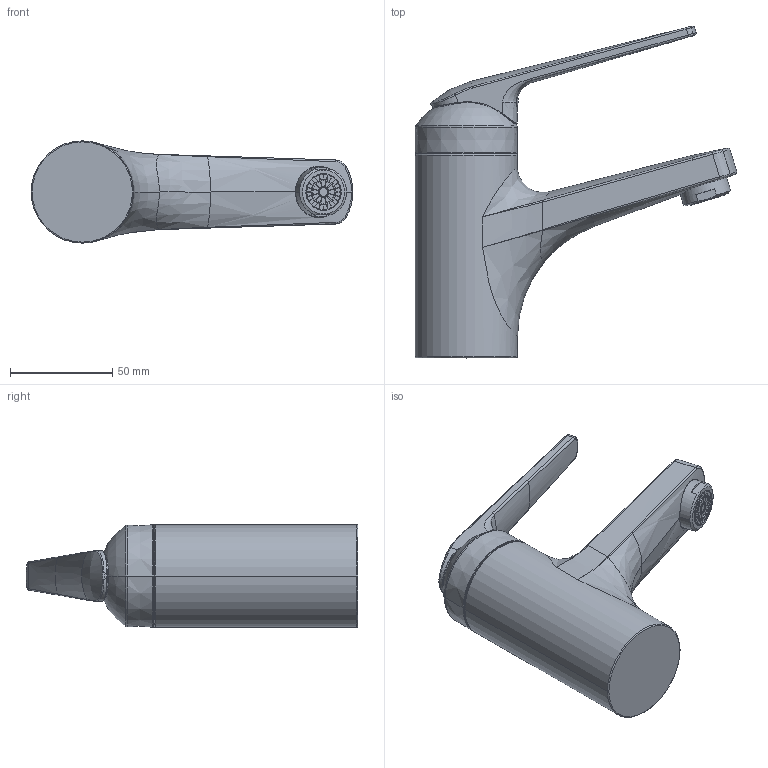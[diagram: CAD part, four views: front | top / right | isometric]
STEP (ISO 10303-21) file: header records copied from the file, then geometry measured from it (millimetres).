
FILE_DESCRIPTION((''),'2;1');
FILE_NAME('12_061_071_XXX','2012-06-05T',('azb9'),(''),'PRO/ENGINEER BY PARAMETRIC TECHNOLOGY CORPORATION, 2011080','PRO/ENGINEER BY PARAMETRIC TECHNOLOGY CORPORATION, 2011080','');
FILE_SCHEMA(('AUTOMOTIVE_DESIGN_CC2 { 1 2 10303 214 -1 1 5 2 }'));
Length unit declared in the file: millimetre
Products named in the file (1): 12_061_071_XXX
Bounding box: 157.19 x 162.18 x 50 mm (x, y, z)
Volume: 339038.5 mm3; surface area: 41961.2 mm2
Topology: 1 solids, 4 shells, 334 faces, 861 edges, 541 vertices
Faces by surface type: plane 169, bspline 93, cylinder 40, torus 22, sphere 6, cone 4
Entity records: 19395 total; most frequent: CARTESIAN_POINT 8085, ORIENTED_EDGE 1718, DIRECTION 1497, EDGE_CURVE 859, FILL_AREA_STYLE_COLOUR 580, FILL_AREA_STYLE 580, SURFACE_STYLE_FILL_AREA 580, SURFACE_SIDE_STYLE 580
